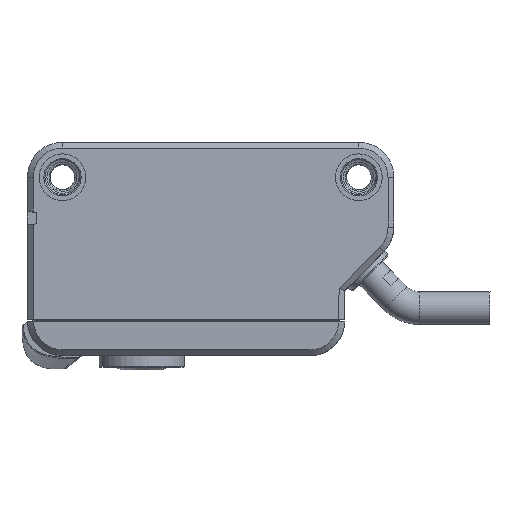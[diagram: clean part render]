
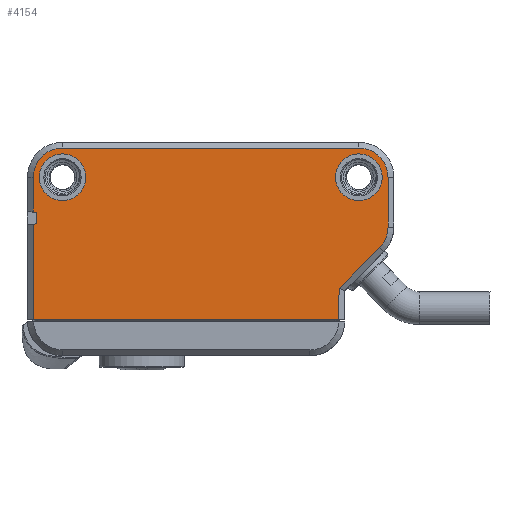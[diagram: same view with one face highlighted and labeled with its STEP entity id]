
A CAD part, left-side view. The second image highlights one B-rep face of the part: STEP entity #4154.
In plain terms, the highlighted planar face has unit normal (-1, 0, 0) as drawn and (0, 0, -1) by its records, which use the part's own axes.
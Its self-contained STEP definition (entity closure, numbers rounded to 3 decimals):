
#632=CARTESIAN_POINT('',(-12.7,-3.,-6.));
#633=DIRECTION('',(0.,0.,-1.));
#634=DIRECTION('',(1.,0.,0.));
#635=AXIS2_PLACEMENT_3D('',#632,#633,#634);
#640=CARTESIAN_POINT('',(-12.7,-3.,-6.));
#641=DIRECTION('',(0.,0.,-1.));
#642=DIRECTION('',(-1.,0.,0.));
#643=AXIS2_PLACEMENT_3D('',#640,#641,#642);
#648=CARTESIAN_POINT('',(12.7,-3.,-6.));
#649=DIRECTION('',(0.,0.,-1.));
#650=DIRECTION('',(1.,0.,0.));
#651=AXIS2_PLACEMENT_3D('',#648,#649,#650);
#656=CARTESIAN_POINT('',(12.7,-3.,-6.));
#657=DIRECTION('',(0.,0.,-1.));
#658=DIRECTION('',(-1.,0.,0.));
#659=AXIS2_PLACEMENT_3D('',#656,#657,#658);
#664=DIRECTION('',(1.,0.,0.));
#665=VECTOR('',#664,26.15);
#666=CARTESIAN_POINT('',(-10.967,-15.2,-6.));
#667=LINE('',#666,#665);
#671=DIRECTION('',(0.,1.,0.));
#672=VECTOR('',#671,8.185);
#673=CARTESIAN_POINT('',(15.183,-15.2,-6.));
#674=LINE('',#673,#672);
#678=DIRECTION('',(0.,-1.,0.));
#679=VECTOR('',#678,1.);
#680=CARTESIAN_POINT('',(14.9,-6.,-6.));
#681=LINE('',#680,#679);
#685=DIRECTION('',(0.,-1.,0.));
#686=VECTOR('',#685,2.984);
#687=CARTESIAN_POINT('',(15.2,-3.,-6.));
#688=LINE('',#687,#686);
#692=CARTESIAN_POINT('',(12.7,-3.,-6.));
#693=DIRECTION('',(0.,0.,-1.));
#694=DIRECTION('',(0.,1.,0.));
#695=AXIS2_PLACEMENT_3D('',#692,#693,#694);
#700=DIRECTION('',(1.,0.,0.));
#701=VECTOR('',#700,25.4);
#702=CARTESIAN_POINT('',(-12.7,-0.5,
-6.));
#703=LINE('',#702,#701);
#707=CARTESIAN_POINT('',(-12.7,-3.,-6.));
#708=DIRECTION('',(0.,0.,-1.));
#709=DIRECTION('',(-1.,0.,0.));
#710=AXIS2_PLACEMENT_3D('',#707,#708,#709);
#715=DIRECTION('',(0.,-1.,0.));
#716=VECTOR('',#715,4.272);
#717=CARTESIAN_POINT('',(-15.2,-3.,
-6.));
#718=LINE('',#717,#716);
#722=CARTESIAN_POINT('',(-12.7,-7.272,-6.));
#723=DIRECTION('',(0.,0.,1.));
#724=DIRECTION('',(-1.,0.,0.));
#725=AXIS2_PLACEMENT_3D('',#722,#723,#724);
#730=DIRECTION('',(0.707,-0.707,0.));
#731=VECTOR('',#730,4.897);
#732=CARTESIAN_POINT('',(-14.467,-9.04,
-6.));
#733=LINE('',#732,#731);
#758=DIRECTION('',(-0.014,1.,0.));
#759=VECTOR('',#758,2.697);
#760=CARTESIAN_POINT('',(-10.967,-15.2,-6.));
#761=LINE('',#760,#759);
#2011=DIRECTION('',(-0.999,-0.052,0.));
#2012=VECTOR('',#2011,0.3);
#2013=CARTESIAN_POINT('',(15.2,-5.984,-6.));
#2014=LINE('',#2013,#2012);
#2046=DIRECTION('',(0.999,-0.052,0.));
#2047=VECTOR('',#2046,0.283);
#2048=CARTESIAN_POINT('',(14.9,-7.,-6.));
#2049=LINE('',#2048,#2047);
#3523=CARTESIAN_POINT('',(14.7,-3.,-6.));
#3524=CARTESIAN_POINT('',(10.7,-3.,-6.));
#3525=VERTEX_POINT('',#3523);
#3526=VERTEX_POINT('',#3524);
#3527=CARTESIAN_POINT('',(-10.7,-3.,-6.));
#3528=CARTESIAN_POINT('',(-14.7,-3.,-6.));
#3529=VERTEX_POINT('',#3527);
#3530=VERTEX_POINT('',#3528);
#3544=CARTESIAN_POINT('',(15.183,-15.2,-6.));
#3546=VERTEX_POINT('',#3544);
#3563=CARTESIAN_POINT('',(12.7,-0.5,-6.));
#3564=CARTESIAN_POINT('',(15.2,-3.,-6.));
#3565=VERTEX_POINT('',#3563);
#3566=VERTEX_POINT('',#3564);
#3571=CARTESIAN_POINT('',(-12.7,-0.5,
-6.));
#3572=VERTEX_POINT('',#3571);
#3575=CARTESIAN_POINT('',(-15.2,-3.,-6.));
#3576=VERTEX_POINT('',#3575);
#3593=CARTESIAN_POINT('',(-15.2,-7.272,
-6.));
#3594=VERTEX_POINT('',#3593);
#3595=CARTESIAN_POINT('',(-14.467,-9.04,
-6.));
#3597=VERTEX_POINT('',#3595);
#3601=CARTESIAN_POINT('',(-11.004,-12.503,
-6.));
#3602=VERTEX_POINT('',#3601);
#3648=CARTESIAN_POINT('',(-10.967,-15.2,-6.));
#3650=VERTEX_POINT('',#3648);
#3652=CARTESIAN_POINT('',(14.9,-7.,-6.));
#3654=VERTEX_POINT('',#3652);
#3663=CARTESIAN_POINT('',(14.9,-6.,-6.));
#3665=VERTEX_POINT('',#3663);
#3685=CARTESIAN_POINT('',(15.183,-7.015,-6.));
#3686=VERTEX_POINT('',#3685);
#3687=CARTESIAN_POINT('',(15.2,-5.984,-6.));
#3689=VERTEX_POINT('',#3687);
#4111=CARTESIAN_POINT('',(15.7,0.,-6.));
#4112=DIRECTION('',(0.,0.,-1.));
#4113=DIRECTION('',(-1.,0.,0.));
#4114=AXIS2_PLACEMENT_3D('',#4111,#4112,#4113);
#4115=PLANE('',#4114);
#4117=ORIENTED_EDGE('',*,*,#4116,.F.);
#4119=ORIENTED_EDGE('',*,*,#4118,.T.);
#4121=ORIENTED_EDGE('',*,*,#4120,.T.);
#4123=ORIENTED_EDGE('',*,*,#4122,.F.);
#4125=ORIENTED_EDGE('',*,*,#4124,.F.);
#4127=ORIENTED_EDGE('',*,*,#4126,.F.);
#4129=ORIENTED_EDGE('',*,*,#4128,.F.);
#4131=ORIENTED_EDGE('',*,*,#4130,.F.);
#4133=ORIENTED_EDGE('',*,*,#4132,.F.);
#4135=ORIENTED_EDGE('',*,*,#4134,.F.);
#4137=ORIENTED_EDGE('',*,*,#4136,.T.);
#4139=ORIENTED_EDGE('',*,*,#4138,.T.);
#4141=ORIENTED_EDGE('',*,*,#4140,.T.);
#4142=EDGE_LOOP('',(#4117,#4119,#4121,#4123,#4125,#4127,#4129,#4131,#4133,#4135,
#4137,#4139,#4141));
#4143=FACE_OUTER_BOUND('',#4142,.F.);
#4145=ORIENTED_EDGE('',*,*,#4144,.T.);
#4147=ORIENTED_EDGE('',*,*,#4146,.T.);
#4148=EDGE_LOOP('',(#4145,#4147));
#4149=FACE_BOUND('',#4148,.F.);
#4150=ORIENTED_EDGE('',*,*,#4090,.T.);
#4151=ORIENTED_EDGE('',*,*,#4104,.T.);
#4152=EDGE_LOOP('',(#4150,#4151));
#4153=FACE_BOUND('',#4152,.F.);
#4154=ADVANCED_FACE('',(#4143,#4149,#4153),#4115,.T.);
#636=CIRCLE('',#635,2.);
#644=CIRCLE('',#643,2.);
#652=CIRCLE('',#651,2.);
#660=CIRCLE('',#659,2.);
#696=CIRCLE('',#695,2.5);
#711=CIRCLE('',#710,2.5);
#726=CIRCLE('',#725,2.5);
#4090=EDGE_CURVE('',#3529,#3530,#636,.T.);
#4104=EDGE_CURVE('',#3530,#3529,#644,.T.);
#4116=EDGE_CURVE('',#3650,#3602,#761,.T.);
#4118=EDGE_CURVE('',#3650,#3546,#667,.T.);
#4120=EDGE_CURVE('',#3546,#3686,#674,.T.);
#4122=EDGE_CURVE('',#3654,#3686,#2049,.T.);
#4124=EDGE_CURVE('',#3665,#3654,#681,.T.);
#4126=EDGE_CURVE('',#3689,#3665,#2014,.T.);
#4128=EDGE_CURVE('',#3566,#3689,#688,.T.);
#4130=EDGE_CURVE('',#3565,#3566,#696,.T.);
#4132=EDGE_CURVE('',#3572,#3565,#703,.T.);
#4134=EDGE_CURVE('',#3576,#3572,#711,.T.);
#4136=EDGE_CURVE('',#3576,#3594,#718,.T.);
#4138=EDGE_CURVE('',#3594,#3597,#726,.T.);
#4140=EDGE_CURVE('',#3597,#3602,#733,.T.);
#4144=EDGE_CURVE('',#3525,#3526,#652,.T.);
#4146=EDGE_CURVE('',#3526,#3525,#660,.T.);
